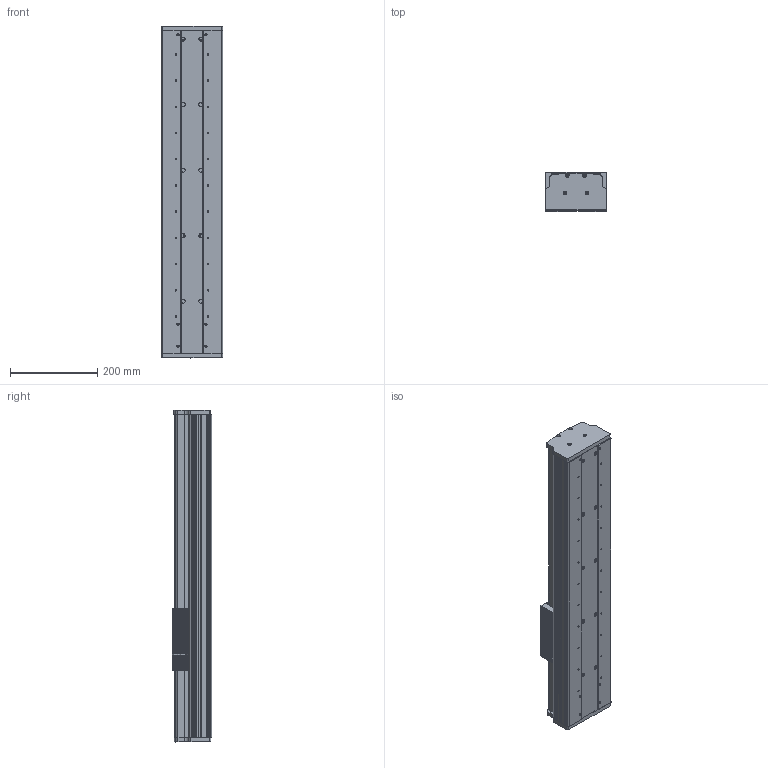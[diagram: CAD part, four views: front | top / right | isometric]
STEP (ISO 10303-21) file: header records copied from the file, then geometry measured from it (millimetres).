
FILE_DESCRIPTION (( 'STEP AP203' ), '1' );
FILE_NAME ('CF140B-C-450-FW.STEP', '2020-06-13T01:37:25', ( 'Micorosoft' ), ( 'Micorosoft' ), 'SwSTEP 2.0', 'SolidWorks 2016', '' );
FILE_SCHEMA (( 'CONFIG_CONTROL_DESIGN' ));
Length unit declared in the file: millimetre
Products named in the file (10): 15絳寢; CF140蹟譫釱; CF140賑雄啣; CF140盓傅釱; CF140裔啣; CF140萇儂啣; 140B珨极嘐隅釱; 菁釱; CF140B-C-450-FW; 15賑輸
Assembly tree (13 placements, depth 2):
  CF140B-C-450-FW
    菁釱
    15賑輸  x4
    15絳寢  x2
    CF140蹟譫釱
    CF140賑雄啣
    CF140盓傅釱
    CF140裔啣
    CF140萇儂啣
    140B珨极嘐隅釱
Bounding box: 140.05 x 89.5 x 760 mm (x, y, z)
Volume: 3668984.1 mm3; surface area: 1272344.6 mm2
Topology: 13 solids, 13 shells, 1313 faces, 3618 edges, 2350 vertices
Faces by surface type: cylinder 577, plane 543, bspline 121, cone 72
Entity records: 46728 total; most frequent: CARTESIAN_POINT 14994, ORIENTED_EDGE 6500, DIRECTION 6156, EDGE_CURVE 3250, AXIS2_PLACEMENT_3D 2154, VERTEX_POINT 2154, VECTOR 1848, LINE 1848
